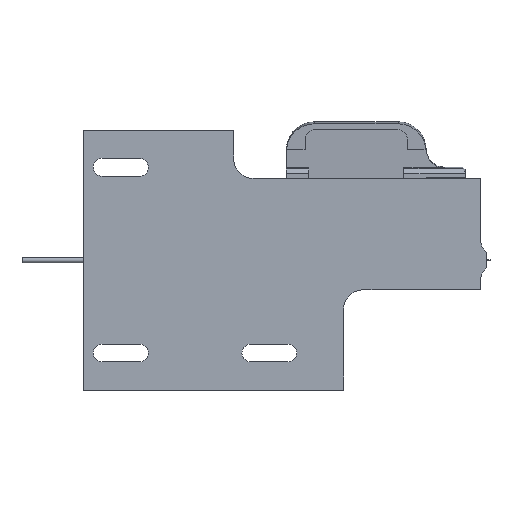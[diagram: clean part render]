
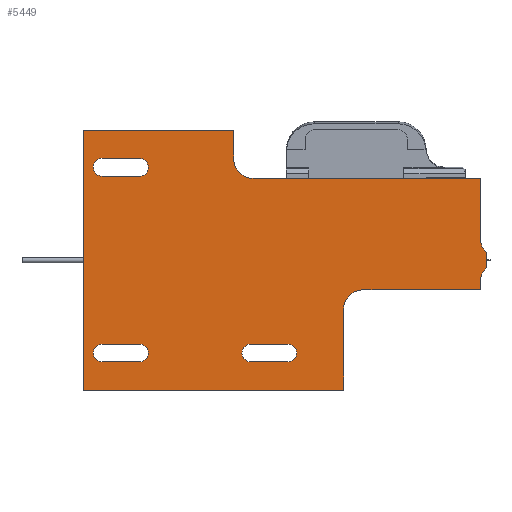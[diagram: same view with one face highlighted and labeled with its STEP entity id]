
A CAD part, front view. The second image highlights one B-rep face of the part: STEP entity #5449.
In plain terms, the highlighted planar face has unit normal (0, -1, 0).
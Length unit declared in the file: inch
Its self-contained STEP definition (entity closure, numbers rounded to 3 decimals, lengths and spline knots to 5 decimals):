
#1973=EDGE_CURVE('FH003-M-2[3]',#6277,#6278,#6279,.T.);
#2104=EDGE_CURVE('FH003-M-2[3]',#6278,#6500,#6501,.F.);
#2445=EDGE_CURVE('FH003-M-2[3]',#7065,#7066,#7067,.F.);
#2738=EDGE_CURVE('FH003-M-2[3]',#7526,#6277,#7527,.F.);
#2813=EDGE_CURVE('FH003-M-2[3]',#7066,#7644,#7645,.F.);
#3011=EDGE_CURVE('FH003-M-2[3]',#7944,#7208,#7945,.T.);
#3291=EDGE_CURVE('FH003-M-2[3]',#7644,#7944,#8353,.T.);
#3559=EDGE_CURVE('FH003-M-2[3]',#7017,#8728,#8729,.T.);
#3812=EDGE_CURVE('FH003-M-2[3]',#9076,#9077,#9078,.T.);
#3875=EDGE_CURVE('FH003-M-2[3]',#7208,#8449,#9160,.T.);
#4054=EDGE_CURVE('FH003-M-2[3]',#8449,#9391,#9392,.F.);
#4107=EDGE_CURVE('FH003-M-2[3]',#9459,#9460,#9461,.T.);
#4131=EDGE_CURVE('FH003-M-2[3]',#9460,#7017,#9494,.F.);
#4245=EDGE_CURVE('FH003-M-2[3]',#6484,#9642,#9643,.T.);
#4406=EDGE_CURVE('FH003-M-2[3]',#6389,#9076,#9840,.F.);
#4547=EDGE_CURVE('FH003-M-2[3]',#6500,#10013,#10014,.T.);
#4687=EDGE_CURVE('FH003-M-2[3]',#9642,#8350,#10183,.F.);
#4703=EDGE_CURVE('FH003-M-2[3]',#8728,#9459,#10202,.F.);
#5377=EDGE_CURVE('FH003-M-2[3]',#6245,#6389,#11002,.T.);
#5442=EDGE_CURVE('FH003-M-2[3]',#8350,#10668,#11076,.T.);
#5449=ADVANCED_FACE('FH003-M-2[3]',(#11083,#11084,#11085,#11086),#11087,.F.);
#5553=EDGE_CURVE('FH003-M-2[3]',#10668,#6484,#11201,.F.);
#5719=EDGE_CURVE('FH003-M-2[3]',#7065,#8877,#11396,.T.);
#5790=EDGE_CURVE('FH003-M-2[3]',#9077,#6245,#11471,.F.);
#5909=EDGE_CURVE('FH003-M-2[3]',#6647,#10013,#11604,.T.);
#6043=EDGE_CURVE('FH003-M-2[3]',#8877,#7526,#11759,.T.);
#6099=EDGE_CURVE('FH003-M-2[3]',#6647,#9391,#11821,.T.);
#6245=VERTEX_POINT('',#12035);
#6277=VERTEX_POINT('',#12098);
#6278=VERTEX_POINT('',#12099);
#6279=CIRCLE('',#12100,0.13);
#6389=VERTEX_POINT('',#12329);
#6484=VERTEX_POINT('',#12484);
#6500=VERTEX_POINT('',#12514);
#6501=LINE('',#12515,#12516);
#6647=VERTEX_POINT('',#12739);
#7017=VERTEX_POINT('',#13423);
#7065=VERTEX_POINT('',#13501);
#7066=VERTEX_POINT('',#13502);
#7067=LINE('',#13503,#13504);
#7208=VERTEX_POINT('',#13781);
#7526=VERTEX_POINT('',#14335);
#7527=LINE('',#14336,#14337);
#7644=VERTEX_POINT('',#14569);
#7645=CIRCLE('',#14570,0.13);
#7944=VERTEX_POINT('',#15096);
#7945=LINE('',#15097,#15098);
#8350=VERTEX_POINT('',#15934);
#8353=LINE('',#15939,#15940);
#8449=VERTEX_POINT('',#16155);
#8728=VERTEX_POINT('',#16720);
#8729=LINE('',#16721,#16722);
#8877=VERTEX_POINT('',#16987);
#9076=VERTEX_POINT('',#17365);
#9077=VERTEX_POINT('',#17366);
#9078=CIRCLE('',#17367,0.06);
#9160=LINE('',#17533,#17534);
#9391=VERTEX_POINT('',#17987);
#9392=LINE('',#17988,#17989);
#9459=VERTEX_POINT('',#18106);
#9460=VERTEX_POINT('',#18107);
#9461=LINE('',#18108,#18109);
#9494=CIRCLE('',#18179,0.06);
#9642=VERTEX_POINT('',#18530);
#9643=LINE('',#18531,#18532);
#9840=LINE('',#19015,#19016);
#10013=VERTEX_POINT('',#19412);
#10014=LINE('',#19413,#19414);
#10183=CIRCLE('',#19786,0.06);
#10202=CIRCLE('',#19818,0.06);
#10668=VERTEX_POINT('',#20906);
#11002=CIRCLE('',#21599,0.06);
#11076=LINE('',#21757,#21758);
#11083=FACE_OUTER_BOUND('',#21773,.T.);
#11084=FACE_BOUND('',#21774,.T.);
#11085=FACE_BOUND('',#21775,.T.);
#11086=FACE_BOUND('',#21776,.T.);
#11087=PLANE('',#21777);
#11201=CIRCLE('',#22026,0.06);
#11396=LINE('',#22463,#22464);
#11471=LINE('',#22729,#22730);
#11604=CIRCLE('',#23111,0.13);
#11759=CIRCLE('',#23441,0.13);
#11821=LINE('',#23593,#23594);
#12035=CARTESIAN_POINT('',(-2.625,-0.49998,0.685));
#12098=CARTESIAN_POINT('',(-0.04,-0.49998,-0.05119));
#12099=CARTESIAN_POINT('',(-0.08,-0.49998,-0.145));
#12100=AXIS2_PLACEMENT_3D('',#23778,#23779,#23780);
#12329=CARTESIAN_POINT('',(-2.625,-0.49998,0.565));
#12484=CARTESIAN_POINT('',(-1.375,-0.49998,-0.565));
#12514=CARTESIAN_POINT('',(-0.08,-0.49998,-0.2));
#12515=CARTESIAN_POINT('',(-0.08,-0.49998,0.14237));
#12516=VECTOR('',#23979,1.0);
#12739=CARTESIAN_POINT('',(-1.0,-0.49998,-0.33));
#13423=CARTESIAN_POINT('',(-2.625,-0.49998,-0.685));
#13501=CARTESIAN_POINT('',(-0.08,-0.49998,0.55));
#13502=CARTESIAN_POINT('',(-1.61,-0.49998,0.55));
#13503=CARTESIAN_POINT('',(-1.19,-0.49998,0.55));
#13504=VECTOR('',#24458,1.0);
#13781=CARTESIAN_POINT('',(-2.75,-0.49998,0.875));
#14335=CARTESIAN_POINT('',(-0.04,-0.49998,0.05119));
#14336=CARTESIAN_POINT('',(-0.04,-0.49998,0.24237));
#14337=VECTOR('',#24897,1.0);
#14569=CARTESIAN_POINT('',(-1.74,-0.49998,0.68));
#14570=AXIS2_PLACEMENT_3D('',#24986,#24987,#24988);
#15096=CARTESIAN_POINT('',(-1.74,-0.49998,0.875));
#15097=CARTESIAN_POINT('',(-1.94,-0.49998,0.875));
#15098=VECTOR('',#25343,1.0);
#15934=CARTESIAN_POINT('',(-1.625,-0.49998,-0.685));
#15939=CARTESIAN_POINT('',(-1.74,-0.49998,0.17362));
#15940=VECTOR('',#25755,1.0);
#16155=CARTESIAN_POINT('',(-2.75,-0.49998,-0.875));
#16720=CARTESIAN_POINT('',(-2.375,-0.49998,-0.685));
#16721=CARTESIAN_POINT('',(-1.92,-0.49998,-0.685));
#16722=VECTOR('',#26134,1.0);
#16987=CARTESIAN_POINT('',(-0.08,-0.49998,0.145));
#17365=CARTESIAN_POINT('',(-2.375,-0.49998,0.565));
#17366=CARTESIAN_POINT('',(-2.375,-0.49998,0.685));
#17367=AXIS2_PLACEMENT_3D('',#26508,#26509,#26510);
#17533=CARTESIAN_POINT('',(-2.75,-0.49998,0.17362));
#17534=VECTOR('',#26595,1.0);
#17987=CARTESIAN_POINT('',(-1.0,-0.49998,-0.875));
#17988=CARTESIAN_POINT('',(-1.2525,-0.49998,-0.875));
#17989=VECTOR('',#26953,1.0);
#18106=CARTESIAN_POINT('',(-2.375,-0.49998,-0.565));
#18107=CARTESIAN_POINT('',(-2.625,-0.49998,-0.565));
#18108=CARTESIAN_POINT('',(-1.92,-0.49998,-0.565));
#18109=VECTOR('',#27020,1.0);
#18179=AXIS2_PLACEMENT_3D('',#27051,#27052,#27053);
#18530=CARTESIAN_POINT('',(-1.625,-0.49998,-0.565));
#18531=CARTESIAN_POINT('',(-1.42,-0.49998,-0.565));
#18532=VECTOR('',#27241,1.0);
#19015=CARTESIAN_POINT('',(-1.92,-0.49998,0.565));
#19016=VECTOR('',#27458,1.0);
#19412=CARTESIAN_POINT('',(-0.87,-0.49998,-0.2));
#19413=CARTESIAN_POINT('',(-1.19,-0.49998,-0.2));
#19414=VECTOR('',#27676,1.0);
#19786=AXIS2_PLACEMENT_3D('',#27848,#27849,#27850);
#19818=AXIS2_PLACEMENT_3D('',#27872,#27873,#27874);
#20906=CARTESIAN_POINT('',(-1.375,-0.49998,-0.685));
#21599=AXIS2_PLACEMENT_3D('',#28870,#28871,#28872);
#21757=CARTESIAN_POINT('',(-1.42,-0.49998,-0.685));
#21758=VECTOR('',#28924,1.0);
#21773=EDGE_LOOP('',(#28929,#28930,#28931,#28932,#28933,#28934,#28935,#28936,#28937,#28938,#28939,#28940,#28941,#28942));
#21774=EDGE_LOOP('',(#28943,#28944,#28945,#28946));
#21775=EDGE_LOOP('',(#28947,#28948,#28949,#28950));
#21776=EDGE_LOOP('',(#28951,#28952,#28953,#28954));
#21777=AXIS2_PLACEMENT_3D('',#28955,#28956,#28957);
#22026=AXIS2_PLACEMENT_3D('',#29072,#29073,#29074);
#22463=CARTESIAN_POINT('',(-0.08,-0.49998,0.34237));
#22464=VECTOR('',#29293,1.0);
#22729=CARTESIAN_POINT('',(-1.92,-0.49998,0.685));
#22730=VECTOR('',#29337,1.0);
#23111=AXIS2_PLACEMENT_3D('',#29475,#29476,#29477);
#23441=AXIS2_PLACEMENT_3D('',#29735,#29736,#29737);
#23593=CARTESIAN_POINT('',(-1.0,-0.49998,-0.25401));
#23594=VECTOR('',#29800,1.0);
#23778=CARTESIAN_POINT('',(0.05,-0.49998,-0.145));
#23779=DIRECTION('',(0.0,-1.0,0.0));
#23780=DIRECTION('',(-1.0,0.0,0.0));
#23979=DIRECTION('',(0.0,0.0,1.0));
#24458=DIRECTION('',(1.0,0.0,0.));
#24897=DIRECTION('',(0.0,0.0,1.0));
#24986=CARTESIAN_POINT('',(-1.61,-0.49998,0.68));
#24987=DIRECTION('',(0.0,-1.0,-0.0));
#24988=DIRECTION('',(-0.707,0.0,-0.707));
#25343=DIRECTION('',(-1.0,0.0,0.));
#25755=DIRECTION('',(0.,0.0,1.0));
#26134=DIRECTION('',(1.0,0.0,0.));
#26508=CARTESIAN_POINT('',(-2.375,-0.49998,0.625));
#26509=DIRECTION('',(0.0,-1.0,0.0));
#26510=DIRECTION('',(-1.0,0.0,0.));
#26595=DIRECTION('',(0.,0.0,-1.0));
#26953=DIRECTION('',(-1.0,0.0,0.));
#27020=DIRECTION('',(-1.0,0.0,0.));
#27051=CARTESIAN_POINT('',(-2.625,-0.49998,-0.625));
#27052=DIRECTION('',(0.0,1.0,0.0));
#27053=DIRECTION('',(-1.0,0.0,0.));
#27241=DIRECTION('',(-1.0,0.0,0.));
#27458=DIRECTION('',(-1.0,0.0,0.));
#27676=DIRECTION('',(-1.0,0.0,0.));
#27848=CARTESIAN_POINT('',(-1.625,-0.49998,-0.625));
#27849=DIRECTION('',(0.0,1.0,0.0));
#27850=DIRECTION('',(-1.0,0.0,0.));
#27872=CARTESIAN_POINT('',(-2.375,-0.49998,-0.625));
#27873=DIRECTION('',(0.0,1.0,0.0));
#27874=DIRECTION('',(-1.0,0.0,0.));
#28870=CARTESIAN_POINT('',(-2.625,-0.49998,0.625));
#28871=DIRECTION('',(0.0,-1.0,0.0));
#28872=DIRECTION('',(-1.0,0.0,0.));
#28924=DIRECTION('',(1.0,0.0,0.));
#28929=ORIENTED_EDGE('',*,*,#3875,.T.);
#28930=ORIENTED_EDGE('',*,*,#4054,.T.);
#28931=ORIENTED_EDGE('',*,*,#6099,.F.);
#28932=ORIENTED_EDGE('',*,*,#5909,.T.);
#28933=ORIENTED_EDGE('',*,*,#4547,.F.);
#28934=ORIENTED_EDGE('',*,*,#2104,.F.);
#28935=ORIENTED_EDGE('',*,*,#1973,.F.);
#28936=ORIENTED_EDGE('',*,*,#2738,.F.);
#28937=ORIENTED_EDGE('',*,*,#6043,.F.);
#28938=ORIENTED_EDGE('',*,*,#5719,.F.);
#28939=ORIENTED_EDGE('',*,*,#2445,.T.);
#28940=ORIENTED_EDGE('',*,*,#2813,.T.);
#28941=ORIENTED_EDGE('',*,*,#3291,.T.);
#28942=ORIENTED_EDGE('',*,*,#3011,.T.);
#28943=ORIENTED_EDGE('',*,*,#4131,.F.);
#28944=ORIENTED_EDGE('',*,*,#4107,.F.);
#28945=ORIENTED_EDGE('',*,*,#4703,.F.);
#28946=ORIENTED_EDGE('',*,*,#3559,.F.);
#28947=ORIENTED_EDGE('',*,*,#5442,.F.);
#28948=ORIENTED_EDGE('',*,*,#4687,.F.);
#28949=ORIENTED_EDGE('',*,*,#4245,.F.);
#28950=ORIENTED_EDGE('',*,*,#5553,.F.);
#28951=ORIENTED_EDGE('',*,*,#5377,.F.);
#28952=ORIENTED_EDGE('',*,*,#5790,.F.);
#28953=ORIENTED_EDGE('',*,*,#3812,.F.);
#28954=ORIENTED_EDGE('',*,*,#4406,.F.);
#28955=CARTESIAN_POINT('',(-1.465,-0.49998,0.48475));
#28956=DIRECTION('',(-0.0,1.0,0.0));
#28957=DIRECTION('',(1.0,0.0,0.0));
#29072=CARTESIAN_POINT('',(-1.375,-0.49998,-0.625));
#29073=DIRECTION('',(0.0,1.0,0.0));
#29074=DIRECTION('',(-1.0,0.0,0.));
#29293=DIRECTION('',(0.,0.0,-1.0));
#29337=DIRECTION('',(1.0,0.0,0.));
#29475=CARTESIAN_POINT('',(-0.87,-0.49998,-0.33));
#29476=DIRECTION('',(0.0,1.0,0.0));
#29477=DIRECTION('',(-0.707,0.0,0.707));
#29735=CARTESIAN_POINT('',(0.05,-0.49998,0.145));
#29736=DIRECTION('',(0.0,-1.0,0.0));
#29737=DIRECTION('',(-1.0,0.0,0.));
#29800=DIRECTION('',(0.,0.0,-1.0));
